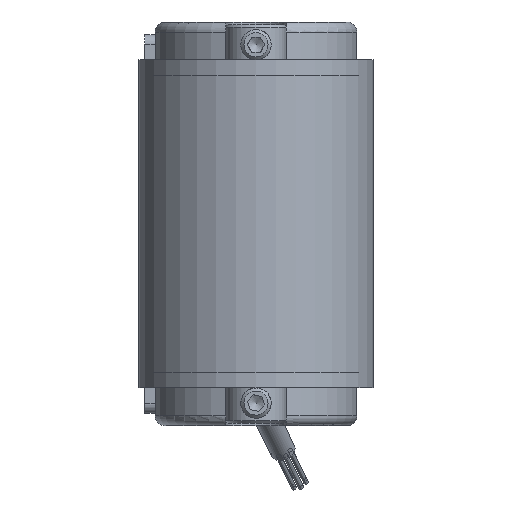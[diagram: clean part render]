
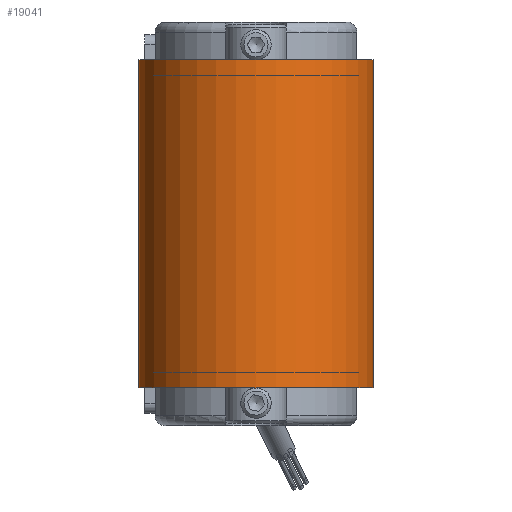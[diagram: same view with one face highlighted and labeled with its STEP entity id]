
A CAD part, front view. The second image highlights one B-rep face of the part: STEP entity #19041.
In plain terms, the highlighted cylindrical face has radius 23.3 mm (diameter 46.6 mm), a partial arc.
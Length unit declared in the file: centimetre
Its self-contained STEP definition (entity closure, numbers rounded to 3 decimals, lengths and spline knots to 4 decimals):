
#1490=FACE_OUTER_BOUND('',#2521,.T.);
#2521=EDGE_LOOP('',(#13165,#13166,#13167,#13168));
#3702=CIRCLE('',#20381,2.33);
#3705=CIRCLE('',#20387,2.33);
#4669=LINE('',#28060,#6213);
#4670=LINE('',#28064,#6214);
#6213=VECTOR('',#23019,1.);
#6214=VECTOR('',#23024,1.);
#7812=VERTEX_POINT('',#28043);
#7813=VERTEX_POINT('',#28044);
#7818=VERTEX_POINT('',#28058);
#7819=VERTEX_POINT('',#28062);
#9890=EDGE_CURVE('',#7812,#7813,#3702,.T.);
#9898=EDGE_CURVE('',#7818,#7813,#4669,.T.);
#9899=EDGE_CURVE('',#7818,#7819,#3705,.T.);
#9900=EDGE_CURVE('',#7812,#7819,#4670,.T.);
#13165=ORIENTED_EDGE('',*,*,#9899,.T.);
#13166=ORIENTED_EDGE('',*,*,#9900,.F.);
#13167=ORIENTED_EDGE('',*,*,#9890,.T.);
#13168=ORIENTED_EDGE('',*,*,#9898,.F.);
#17652=CYLINDRICAL_SURFACE('',#20386,2.33);
#19041=ADVANCED_FACE('',(#1490),#17652,.T.);
#20381=AXIS2_PLACEMENT_3D('',#28045,#23004,#23005);
#20386=AXIS2_PLACEMENT_3D('',#28061,#23020,#23021);
#20387=AXIS2_PLACEMENT_3D('',#28063,#23022,#23023);
#23004=DIRECTION('center_axis',(0.,0.,
-1.));
#23005=DIRECTION('ref_axis',(-1.,0.,0.));
#23019=DIRECTION('',(0.,0.,1.));
#23020=DIRECTION('center_axis',(0.,0.,
-1.));
#23021=DIRECTION('ref_axis',(-1.,0.,0.));
#23022=DIRECTION('center_axis',(0.,0.,
1.));
#23023=DIRECTION('ref_axis',(-1.,0.,0.));
#23024=DIRECTION('',(0.,0.,-1.));
#28043=CARTESIAN_POINT('',(2.33,-57.,3.25));
#28044=CARTESIAN_POINT('',(-2.33,-57.,3.25));
#28045=CARTESIAN_POINT('Origin',(0.,-57.,
3.25));
#28058=CARTESIAN_POINT('',(-2.33,-57.,-3.25));
#28060=CARTESIAN_POINT('',(-2.33,-57.,0.));
#28061=CARTESIAN_POINT('Origin',(0.,-57.,
0.));
#28062=CARTESIAN_POINT('',(2.33,-57.,-3.25));
#28063=CARTESIAN_POINT('Origin',(0.,-57.,
-3.25));
#28064=CARTESIAN_POINT('',(2.33,-57.,0.));
